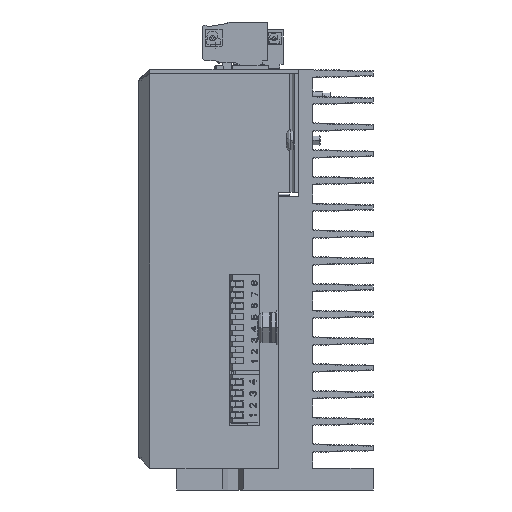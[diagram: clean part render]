
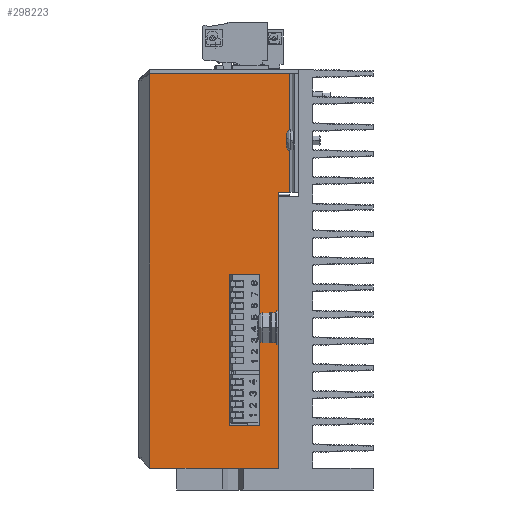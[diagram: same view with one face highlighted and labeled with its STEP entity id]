
A CAD part, left-side view. The second image highlights one B-rep face of the part: STEP entity #298223.
In plain terms, the highlighted planar face has unit normal (-1, 0, 0).
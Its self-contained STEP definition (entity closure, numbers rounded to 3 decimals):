
#296944=DIRECTION('',(0.,0.,1.));
#296945=VECTOR('',#296944,91.5);
#296946=CARTESIAN_POINT('',(-73.,34.5,-46.));
#296947=LINE('',#296946,#296945);
#296970=DIRECTION('',(0.,1.,0.));
#296971=VECTOR('',#296970,15.3);
#296972=CARTESIAN_POINT('',(-73.,4.7,-46.));
#296973=LINE('',#296972,#296971);
#296974=DIRECTION('',(0.,0.,1.));
#296975=VECTOR('',#296974,2.);
#296976=CARTESIAN_POINT('',(-73.,20.,-48.));
#296977=LINE('',#296976,#296975);
#296978=DIRECTION('',(0.,-1.,0.));
#296979=VECTOR('',#296978,4.);
#296980=CARTESIAN_POINT('',(-73.,24.,-48.));
#296981=LINE('',#296980,#296979);
#296982=DIRECTION('',(0.,0.,-1.));
#296983=VECTOR('',#296982,2.);
#296984=CARTESIAN_POINT('',(-73.,24.,-46.));
#296985=LINE('',#296984,#296983);
#296986=DIRECTION('',(0.,1.,0.));
#296987=VECTOR('',#296986,10.5);
#296988=CARTESIAN_POINT('',(-73.,24.,-46.));
#296989=LINE('',#296988,#296987);
#296990=DIRECTION('',(0.,-1.,0.));
#296991=VECTOR('',#296990,32.5);
#296992=CARTESIAN_POINT('',(-73.,34.5,45.5));
#296993=LINE('',#296992,#296991);
#296994=DIRECTION('',(0.,1.,0.));
#296995=VECTOR('',#296994,2.7);
#296996=CARTESIAN_POINT('',(-73.,2.,18.));
#296997=LINE('',#296996,#296995);
#296998=DIRECTION('',(0.,0.,1.));
#296999=VECTOR('',#296998,64.);
#297000=CARTESIAN_POINT('',(-73.,4.7,-46.));
#297001=LINE('',#297000,#296999);
#297002=DIRECTION('',(0.,-1.,0.));
#297003=VECTOR('',#297002,7.);
#297004=CARTESIAN_POINT('',(-73.,16.,-1.));
#297005=LINE('',#297004,#297003);
#297006=DIRECTION('',(0.,0.,1.));
#297007=VECTOR('',#297006,35.);
#297008=CARTESIAN_POINT('',(-73.,16.,-36.));
#297009=LINE('',#297008,#297007);
#297010=DIRECTION('',(0.,1.,0.));
#297011=VECTOR('',#297010,7.);
#297012=CARTESIAN_POINT('',(-73.,9.,-36.));
#297013=LINE('',#297012,#297011);
#297014=DIRECTION('',(0.,0.,-1.));
#297015=VECTOR('',#297014,35.);
#297016=CARTESIAN_POINT('',(-73.,9.,-1.));
#297017=LINE('',#297016,#297015);
#297825=DIRECTION('',(0.,0.,-1.));
#297826=VECTOR('',#297825,27.5);
#297827=CARTESIAN_POINT('',(-73.,2.,45.5));
#297828=LINE('',#297827,#297826);
#297956=CARTESIAN_POINT('',(-73.,34.5,-46.));
#297957=CARTESIAN_POINT('',(-73.,34.5,45.5));
#297958=VERTEX_POINT('',#297956);
#297959=VERTEX_POINT('',#297957);
#297964=CARTESIAN_POINT('',(-73.,4.7,-46.));
#297966=VERTEX_POINT('',#297964);
#297976=CARTESIAN_POINT('',(-73.,24.,-46.));
#297977=CARTESIAN_POINT('',(-73.,24.,-48.));
#297978=VERTEX_POINT('',#297976);
#297979=VERTEX_POINT('',#297977);
#297980=CARTESIAN_POINT('',(-73.,20.,-48.));
#297981=VERTEX_POINT('',#297980);
#297982=CARTESIAN_POINT('',(-73.,20.,-46.));
#297983=VERTEX_POINT('',#297982);
#298024=CARTESIAN_POINT('',(-73.,2.,45.5));
#298025=VERTEX_POINT('',#298024);
#298026=CARTESIAN_POINT('',(-73.,2.,18.));
#298027=VERTEX_POINT('',#298026);
#298112=CARTESIAN_POINT('',(-73.,16.,-1.));
#298113=CARTESIAN_POINT('',(-73.,9.,-1.));
#298114=VERTEX_POINT('',#298112);
#298115=VERTEX_POINT('',#298113);
#298116=CARTESIAN_POINT('',(-73.,9.,-36.));
#298117=VERTEX_POINT('',#298116);
#298118=CARTESIAN_POINT('',(-73.,16.,-36.));
#298119=VERTEX_POINT('',#298118);
#298132=CARTESIAN_POINT('',(-73.,4.7,18.));
#298133=VERTEX_POINT('',#298132);
#298187=CARTESIAN_POINT('',(-73.,37.,44.));
#298188=DIRECTION('',(1.,0.,0.));
#298189=DIRECTION('',(0.,0.,1.));
#298190=AXIS2_PLACEMENT_3D('',#298187,#298188,#298189);
#298191=PLANE('',#298190);
#298193=ORIENTED_EDGE('',*,*,#298192,.T.);
#298195=ORIENTED_EDGE('',*,*,#298194,.F.);
#298197=ORIENTED_EDGE('',*,*,#298196,.F.);
#298199=ORIENTED_EDGE('',*,*,#298198,.F.);
#298201=ORIENTED_EDGE('',*,*,#298200,.T.);
#298202=ORIENTED_EDGE('',*,*,#298177,.T.);
#298204=ORIENTED_EDGE('',*,*,#298203,.T.);
#298206=ORIENTED_EDGE('',*,*,#298205,.T.);
#298208=ORIENTED_EDGE('',*,*,#298207,.T.);
#298210=ORIENTED_EDGE('',*,*,#298209,.F.);
#298211=EDGE_LOOP('',(#298193,#298195,#298197,#298199,#298201,#298202,#298204,
#298206,#298208,#298210));
#298212=FACE_OUTER_BOUND('',#298211,.F.);
#298214=ORIENTED_EDGE('',*,*,#298213,.F.);
#298216=ORIENTED_EDGE('',*,*,#298215,.F.);
#298218=ORIENTED_EDGE('',*,*,#298217,.F.);
#298220=ORIENTED_EDGE('',*,*,#298219,.F.);
#298221=EDGE_LOOP('',(#298214,#298216,#298218,#298220));
#298222=FACE_BOUND('',#298221,.F.);
#298223=ADVANCED_FACE('',(#298212,#298222),#298191,.F.);
#298177=EDGE_CURVE('',#297958,#297959,#296947,.T.);
#298192=EDGE_CURVE('',#297966,#297983,#296973,.T.);
#298194=EDGE_CURVE('',#297981,#297983,#296977,.T.);
#298196=EDGE_CURVE('',#297979,#297981,#296981,.T.);
#298198=EDGE_CURVE('',#297978,#297979,#296985,.T.);
#298200=EDGE_CURVE('',#297978,#297958,#296989,.T.);
#298203=EDGE_CURVE('',#297959,#298025,#296993,.T.);
#298205=EDGE_CURVE('',#298025,#298027,#297828,.T.);
#298207=EDGE_CURVE('',#298027,#298133,#296997,.T.);
#298209=EDGE_CURVE('',#297966,#298133,#297001,.T.);
#298213=EDGE_CURVE('',#298114,#298115,#297005,.T.);
#298215=EDGE_CURVE('',#298119,#298114,#297009,.T.);
#298217=EDGE_CURVE('',#298117,#298119,#297013,.T.);
#298219=EDGE_CURVE('',#298115,#298117,#297017,.T.);
